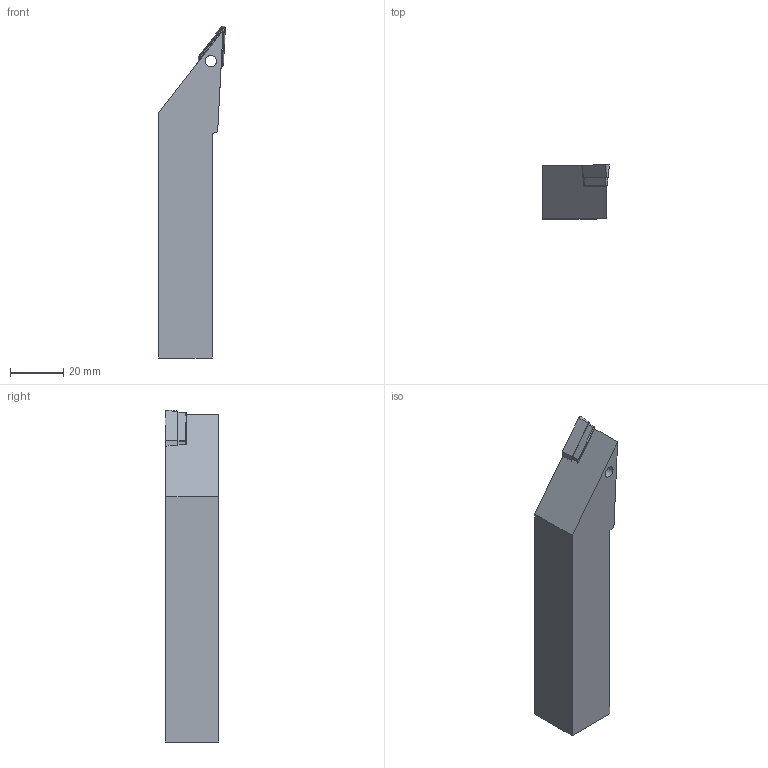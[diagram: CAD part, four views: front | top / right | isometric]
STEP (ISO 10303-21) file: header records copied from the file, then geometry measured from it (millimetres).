
FILE_DESCRIPTION(/* description */ (''),/* implementation_level */ '2;1');
FILE_NAME(/* name */ 'SVJBR2020-K16-HAAS.stp',/* time_stamp */ '2021-09-29T10:52:07+09:00',/* author */ (''),/* organization */ (''),/* preprocessor_version */ 'ST-DEVELOPER v16.7',/* originating_system */ 'SIEMENS PLM Software NX 1946',/* authorisation */ '');
FILE_SCHEMA (('AP203_CONFIGURATION_CONTROLLED_3D_DESIGN_OF_MECHANICAL_PARTS_AND_ASSEMBLIES_MIM_LF { 1 0 10303 403 2 1 2}'));
Length unit declared in the file: millimetre
Products named in the file (1): user51A0C9E06996
Bounding box: 24.94 x 20 x 124.15 mm (x, y, z)
Volume: 43459.6 mm3; surface area: 11086.3 mm2
Topology: 3 solids, 3 shells, 60 faces, 153 edges, 99 vertices
Faces by surface type: plane 43, cylinder 10, cone 7
Full cylindrical faces by diameter (mm): 4.2 x1, 5.4 x1, 6.2 x1
Entity records: 1876 total; most frequent: CARTESIAN_POINT 307, DIRECTION 300, ORIENTED_EDGE 296, EDGE_CURVE 148, LINE 118, VECTOR 118, VERTEX_POINT 98, AXIS2_PLACEMENT_3D 91
